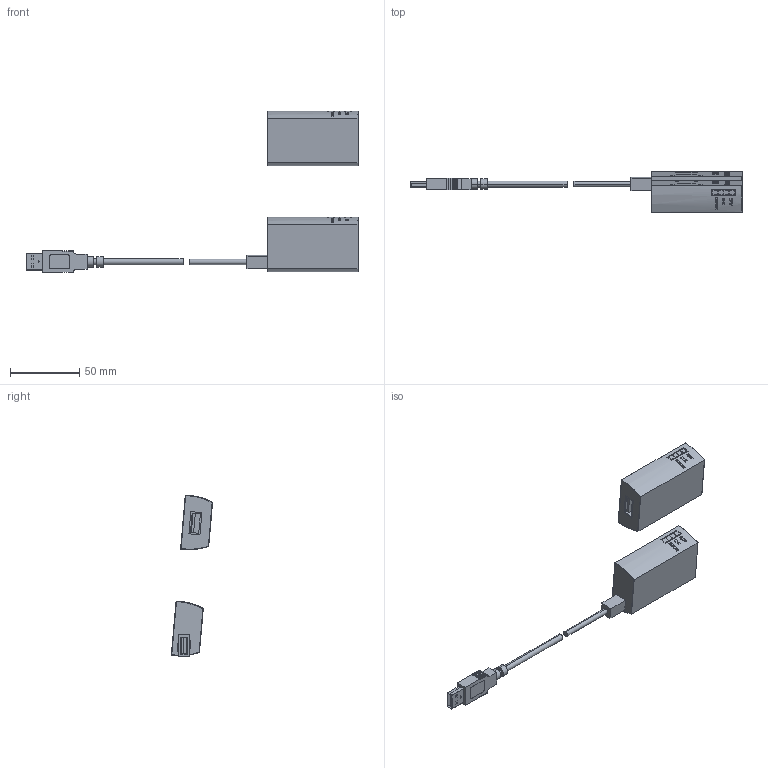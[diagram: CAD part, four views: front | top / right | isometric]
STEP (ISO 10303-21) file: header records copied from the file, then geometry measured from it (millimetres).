
FILE_DESCRIPTION (( 'STEP AP203' ), '1' );
FILE_NAME ('USB-RPT-2.STEP', '2017-12-14T08:56:57', ( '' ), ( '' ), 'SwSTEP 2.0', 'SolidWorks 2013', '' );
FILE_SCHEMA (( 'CONFIG_CONTROL_DESIGN' ));
Length unit declared in the file: millimetre
Products named in the file (4): USB-RPT-2; 2323; 22222; 12121
Assembly tree (3 placements, depth 2):
  USB-RPT-2
    12121
    2323
    22222
Bounding box: 238.9 x 29.63 x 116.44 mm (x, y, z)
Volume: 101748.1 mm3; surface area: 25748.1 mm2
Topology: 11 solids, 11 shells, 429 faces, 1593 edges, 1298 vertices
Faces by surface type: plane 325, cylinder 100, bspline 4
Entity records: 21235 total; most frequent: CARTESIAN_POINT 7003, ORIENTED_EDGE 3186, DIRECTION 2429, EDGE_CURVE 1593, VERTEX_POINT 1298, LINE 1073, VECTOR 1073, AXIS2_PLACEMENT_3D 678
